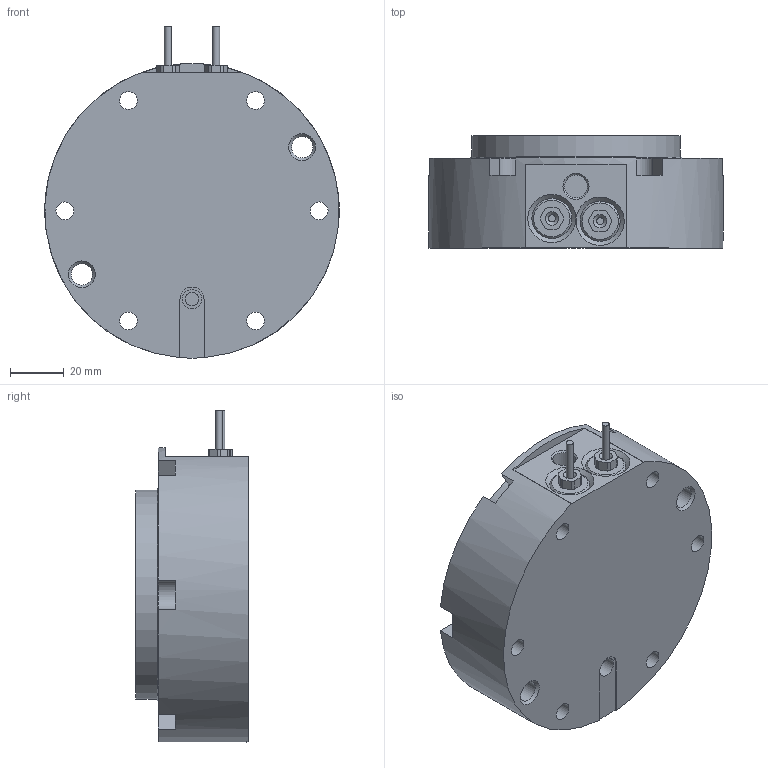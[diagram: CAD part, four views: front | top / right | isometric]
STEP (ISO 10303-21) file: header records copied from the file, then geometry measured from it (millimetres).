
FILE_DESCRIPTION( ( 'STEP AP203' ), '1' );
FILE_NAME( 'p:/temp/worker_28/temp/exporttempdir_5340_366_6V9eI/format_1/AMF558051.stp', '2020-03-20T06:54:21', ( 'License CC BY-ND 4.0' ), ( 'CADENAS' ), ' ', 'PARTsolutions', ' ' );
FILE_SCHEMA( ( 'CONFIG_CONTROL_DESIGN' ) );
Length unit declared in the file: millimetre
Products named in the file (3): AMF558051; _AMF558051-01; _AMF553152
Assembly tree (2 placements, depth 2):
  AMF558051
    _AMF558051-01
    _AMF553152
Bounding box: 109.94 x 42 x 123.98 mm (x, y, z)
Volume: 334769 mm3; surface area: 59942.3 mm2
Topology: 2 solids, 2 shells, 241 faces, 539 edges, 356 vertices
Faces by surface type: plane 147, cylinder 72, cone 20, torus 2
Full cylindrical faces by diameter (mm): 2 x1, 2.6 x2, 3.242 x2, 4 x6, 4.3 x6, 5 x1, 6.6 x6, 7 x6, 7.2 x1, 8 x3, 8.2 x1, 8.5 x6, 8.566 x1, 9 x2, 15 x3, 54.5 x2, 78 x1, 110 x1
Entity records: 6422 total; most frequent: DIRECTION 1120, CARTESIAN_POINT 1092, ORIENTED_EDGE 908, EDGE_CURVE 454, AXIS2_PLACEMENT_3D 428, EDGE_LOOP 384, VERTEX_POINT 344, FACE_OUTER_BOUND 294
